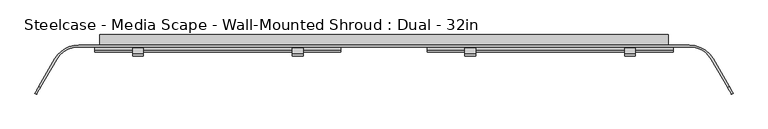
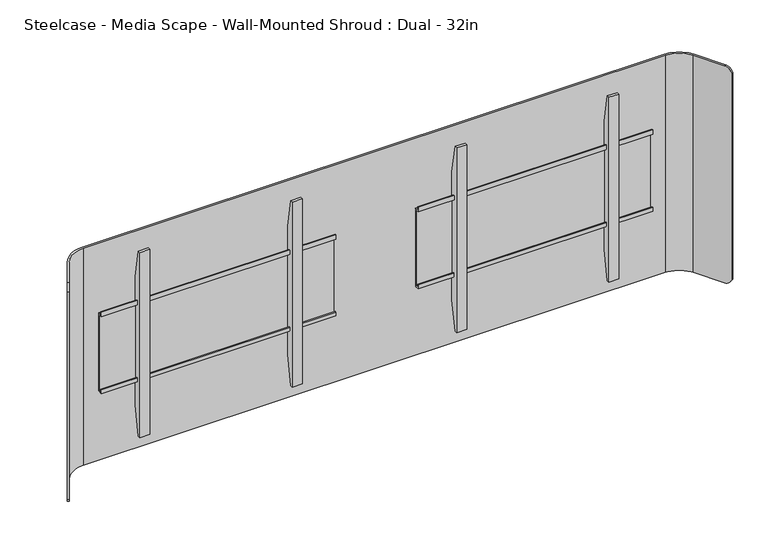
"""IFC4 building model written with IfcOpenShell, lengths in millimetres: furniture geometry, Steelcase - Media Scape - Wall-Mounted Shroud : Dual - 32in."""

from ifc_helpers import new_model, si_unit, frame, origin, place, context, project, spatial, polyline, circle_curve, outline, extrude, source, transform, mapped, element, save
from ifc_brep_helpers import plane_surface, cylinder_surface, revolved_surface, advanced_brep


def steelcase_media_scape_wall_mounted_shroud_dual_32in_642b713b(model_context):
    return source(origin(), model_context, "Body", "SolidModel", [
        extrude(outline(polyline([(-42.4942785, 1237.6504726), (-42.4942785, 1249.6645649), (-39.8272175, 1249.6645649), (-39.8272175, 1240.317461), (-29.9720009, 1240.317461), (-29.9720009, 1025.9922438), (-42.3164551, 1025.9922438), (-42.3164551, 1036.9142515), (-39.649394, 1036.9142515), (-39.649394, 1028.657052), (-32.6531824, 1028.657052), (-32.6531824, 1237.6504726), (-42.4942785, 1237.6504726)])), frame((107.061, 0.0, 0.0), z_axis=(1.0, 0.0, 0.0), x_axis=(0.0, 1.0, 0.0)), (0.0, 0.0, 1.0), 609.6),
        extrude(outline(polyline([(-32.6531824, 1308.5971148), (-32.6531824, 956.7825607), (-46.5049349, 879.1546949), (-53.3399828, 879.1546949), (-53.3399828, 1387.1547192), (-46.5050076, 1387.1547192), (-32.6531824, 1308.5971148)])), frame((200.662426, 0.0, 0.0), z_axis=(1.0, 0.0, 0.0), x_axis=(0.0, 1.0, 0.0)), (0.0, 0.0, 1.0), 26.1592872),
        extrude(outline(polyline([(-32.6531824, 1308.5971148), (-32.6531824, 956.7825607), (-46.5049349, 879.1546949), (-53.3399828, 879.1546949), (-53.3399828, 1387.1547192), (-46.5050076, 1387.1547192), (-32.6531824, 1308.5971148)])), frame((596.9002868, 0.0, 0.0), z_axis=(1.0, 0.0, 0.0), x_axis=(0.0, 1.0, 0.0)), (0.0, 0.0, 1.0), 26.1592872),
        extrude(outline(polyline([(-42.4942785, 1237.6504726), (-42.4942785, 1249.6645649), (-39.8272175, 1249.6645649), (-39.8272175, 1240.317461), (-29.9720009, 1240.317461), (-29.9720009, 1025.9922438), (-42.3164551, 1025.9922438), (-42.3164551, 1036.9142515), (-39.649394, 1036.9142515), (-39.649394, 1028.657052), (-32.6531824, 1028.657052), (-32.6531824, 1237.6504726), (-42.4942785, 1237.6504726)])), frame((-716.661, 0.0, 0.0), z_axis=(1.0, 0.0, 0.0), x_axis=(0.0, 1.0, 0.0)), (0.0, 0.0, 1.0), 609.6),
        extrude(outline(polyline([(-32.6531824, 1308.5971148), (-32.6531824, 956.7825607), (-46.5049349, 879.1546949), (-53.3399828, 879.1546949), (-53.3399828, 1387.1547192), (-46.5050076, 1387.1547192), (-32.6531824, 1308.5971148)])), frame((-226.8217132, 0.0, 0.0), z_axis=(1.0, 0.0, 0.0), x_axis=(0.0, 1.0, 0.0)), (0.0, 0.0, 1.0), 26.1592872),
        extrude(outline(polyline([(-32.6531824, 1308.5971148), (-32.6531824, 956.7825607), (-46.5049349, 879.1546949), (-53.3399828, 879.1546949), (-53.3399828, 1387.1547192), (-46.5050076, 1387.1547192), (-32.6531824, 1308.5971148)])), frame((-623.059574, 0.0, 0.0), z_axis=(1.0, 0.0, 0.0), x_axis=(0.0, 1.0, 0.0)), (0.0, 0.0, 1.0), 26.1592872),
        advanced_brep(
        [(-811.6586135, -61.722, 1432.814), (-756.666002, -29.9720009, 1432.814), (756.666, -29.9720009, 1432.814), (811.6586135, -61.722, 1432.814), (851.779586, -131.2135628, 1432.814), (855.7390541, -128.9275628, 1432.814), (815.6180817, -59.436, 1432.814), (756.666002, -25.4, 1432.814), (-756.666, -25.4, 1432.814), (-815.6180817, -59.436, 1432.814), (-855.7421659, -128.9329524, 1432.814), (-851.7826977, -131.2189524, 1432.814), (-815.6180817, -59.436, 835.914), (-756.666002, -25.4, 835.914), (756.666, -25.4, 835.914), (815.6180817, -59.436, 835.914), (855.7906629, -129.0169518, 835.914), (851.8311948, -131.3029518, 835.914), (811.6586135, -61.722, 835.914), (756.666002, -29.9720009, 835.914), (-756.666, -29.9720009, 835.914), (-811.6586135, -61.722, 835.914), (-851.8454014, -131.3275584, 835.914), (-855.8048695, -129.0415584, 835.914), (-865.3090632, -145.5033047, 849.5242766), (-865.3090632, -145.5033047, 1418.8227735), (-861.3495951, -147.7893047, 1418.8227735), (-861.3495951, -147.7893047, 849.5242766), (861.3270866, -147.7503189, 849.4756893), (861.3270866, -147.7503189, 1418.9433849), (865.2865547, -145.4643189, 1418.9433849), (865.2865547, -145.4643189, 849.4756893)],
        [
            (0, 1, circle_curve(frame((-756.666002, -93.4719991, 1432.814), z_axis=(0.0, 0.0, -1.0), x_axis=(0.0, 1.0, 0.0)), 63.4999981)),
            (1, 2),
            (2, 3, circle_curve(frame((756.666002, -93.4719991, 1432.814), z_axis=(0.0, 0.0, -1.0), x_axis=(0.0, 1.0, 0.0)), 63.4999981)),
            (3, 4),
            (4, 5),
            (5, 6),
            (6, 7, circle_curve(frame((756.6660004, -93.472, 1432.814), z_axis=(0.0, 0.0, 1.0), x_axis=(0.0, 1.0, 0.0)), 68.072)),
            (7, 8),
            (8, 9, circle_curve(frame((-756.6660004, -93.472, 1432.814), z_axis=(0.0, 0.0, 1.0), x_axis=(0.0, 1.0, 0.0)), 68.072)),
            (9, 10),
            (10, 11),
            (11, 0),
            (12, 13, circle_curve(frame((-756.6660004, -93.472, 835.914), z_axis=(0.0, 0.0, -1.0), x_axis=(0.0, 1.0, 0.0)), 68.072)),
            (13, 14),
            (14, 15, circle_curve(frame((756.6660004, -93.472, 835.914), z_axis=(0.0, 0.0, -1.0), x_axis=(0.0, 1.0, 0.0)), 68.072)),
            (15, 16),
            (16, 17),
            (17, 18),
            (18, 19, circle_curve(frame((756.666002, -93.4719991, 835.914), z_axis=(0.0, 0.0, 1.0), x_axis=(0.0, 1.0, 0.0)), 63.4999981)),
            (19, 20),
            (20, 21, circle_curve(frame((-756.666002, -93.4719991, 835.914), z_axis=(0.0, 0.0, 1.0), x_axis=(0.0, 1.0, 0.0)), 63.4999981)),
            (21, 22),
            (22, 23),
            (23, 12),
            (0, 21),
            (20, 1),
            (8, 13),
            (12, 9),
            (23, 24, circle_curve(frame((-855.8048695, -129.0415584, 855.9928872), z_axis=(-0.8660254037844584, 0.49999999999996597, 0.0), x_axis=(-0.49999999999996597, -0.8660254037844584, 0.0)), 20.0788872)),
            (24, 25),
            (25, 10, circle_curve(frame((-855.7421659, -128.9329524, 1412.7351128), z_axis=(-0.8660254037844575, 0.4999999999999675, 0.0), x_axis=(-0.4999999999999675, -0.8660254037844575, 0.0)), 20.0788872)),
            (26, 25),
            (24, 27),
            (27, 26),
            (11, 26, circle_curve(frame((-851.7826977, -131.2189524, 1412.7351128), z_axis=(0.8660254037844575, -0.4999999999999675, 0.0), x_axis=(-0.4999999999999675, -0.8660254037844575, 0.0)), 20.0788872)),
            (27, 22, circle_curve(frame((-851.8454014, -131.3275584, 855.9928872), z_axis=(0.8660254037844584, -0.49999999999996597, 0.0), x_axis=(-0.49999999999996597, -0.8660254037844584, 0.0)), 20.0788872)),
            (7, 14),
            (19, 2),
            (3, 18),
            (17, 28, circle_curve(frame((851.8311948, -131.3029518, 855.9928872), z_axis=(-0.8660254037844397, -0.49999999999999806, 0.0), x_axis=(0.49999999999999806, -0.8660254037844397, 0.0)), 20.0788872)),
            (28, 29),
            (29, 4, circle_curve(frame((851.779586, -131.2135628, 1412.7351128), z_axis=(-0.8660254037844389, -0.49999999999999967, 0.0), x_axis=(0.49999999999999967, -0.8660254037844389, 0.0)), 20.0788872)),
            (30, 29),
            (28, 31),
            (31, 30),
            (15, 6),
            (5, 30, circle_curve(frame((855.7390541, -128.9275628, 1412.7351128), z_axis=(0.8660254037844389, 0.49999999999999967, 0.0), x_axis=(0.49999999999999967, -0.8660254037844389, 0.0)), 20.0788872)),
            (31, 16, circle_curve(frame((855.7906629, -129.0169518, 855.9928872), z_axis=(0.8660254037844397, 0.49999999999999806, 0.0), x_axis=(0.49999999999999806, -0.8660254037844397, 0.0)), 20.0788872)),
        ],
        [
            plane_surface(frame((-756.666002, -29.9720009, 1432.814), z_axis=(0.0, 0.0, 1.0), x_axis=(1.0, 0.0, 0.0))),
            plane_surface(frame((-756.666002, -29.9720009, 835.914), z_axis=(0.0, 0.0, -1.0), x_axis=(-1.0, 0.0, 0.0))),
            revolved_surface(polyline([(-756.666002, -29.972001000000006, 835.914), (-756.666002, -29.972001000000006, 1432.814)]), (-756.666002, -93.4719991, 835.914), (0.0, 0.0, -1.0)),
            cylinder_surface(frame((-756.6660004, -93.472, 835.914), z_axis=(0.0, 0.0, 1.0), x_axis=(0.0, 1.0, 0.0)), 68.072),
            plane_surface(frame((-815.6180817, -59.436, 1432.814), z_axis=(-0.8660254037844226, 0.5000000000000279, 0.0), x_axis=(0.0, 0.0, -1.0))),
            plane_surface(frame((-865.3090632, -145.5033047, 1432.814), z_axis=(-0.5000000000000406, -0.8660254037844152, 0.0), x_axis=(0.0, 0.0, -1.0))),
            plane_surface(frame((-861.3495951, -147.7893047, 1432.814), z_axis=(0.8660254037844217, -0.5000000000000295, 0.0), x_axis=(0.0, 0.0, -1.0))),
            plane_surface(frame((756.666, -25.4, 1432.814), z_axis=(0.0, 1.0, 0.0), x_axis=(0.0, 0.0, -1.0))),
            plane_surface(frame((-756.666, -29.9720009, 1432.814), z_axis=(0.0, -1.0, 0.0), x_axis=(0.0, 0.0, -1.0))),
            plane_surface(frame((811.6586135, -61.722, 1432.814), z_axis=(-0.8660254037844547, -0.4999999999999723, 0.0), x_axis=(0.0, 0.0, -1.0))),
            plane_surface(frame((861.3270866, -147.7503189, 1432.814), z_axis=(0.4999999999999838, -0.866025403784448, 0.0), x_axis=(0.0, 0.0, -1.0))),
            plane_surface(frame((865.2865547, -145.4643189, 1432.814), z_axis=(0.8660254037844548, 0.49999999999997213, 0.0), x_axis=(0.0, 0.0, -1.0))),
            cylinder_surface(frame((756.6660004, -93.472, 835.914), z_axis=(0.0, 0.0, 1.0), x_axis=(0.0, 1.0, 0.0)), 68.072),
            revolved_surface(polyline([(756.666002, -29.972001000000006, 835.914), (756.666002, -29.972001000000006, 1432.814)]), (756.666002, -93.4719991, 835.914), (0.0, 0.0, -1.0)),
            cylinder_surface(frame((-851.7826977, -131.2189524, 1412.7351128), z_axis=(0.8660254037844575, -0.4999999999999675, 0.0), x_axis=(-0.4999999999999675, -0.8660254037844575, 0.0)), 20.0788872),
            cylinder_surface(frame((-851.8454014, -131.3275584, 855.9928872), z_axis=(0.8660254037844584, -0.49999999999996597, 0.0), x_axis=(-0.49999999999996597, -0.8660254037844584, 0.0)), 20.0788872),
            cylinder_surface(frame((866.8864297, -122.4916225, 1412.7351128), z_axis=(0.8660254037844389, 0.49999999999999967, 0.0), x_axis=(0.49999999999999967, -0.8660254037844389, 0.0)), 20.0788872),
            cylinder_surface(frame((864.0789695, -124.2316958, 855.9928872), z_axis=(0.8660254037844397, 0.49999999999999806, 0.0), x_axis=(0.49999999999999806, -0.8660254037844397, 0.0)), 20.0788872),
        ],
        [
            (0, [[1, 2, 3, 4, 5, 6, 7, 8, 9, 10, 11, 12]]),
            (1, [[13, 14, 15, 16, 17, 18, 19, 20, 21, 22, 23, 24]]),
            (2, [[-1, 25, -21, 26]]),
            (3, [[-9, 27, -13, 28]]),
            (4, [[-28, -24, 29, 30, 31, -10]]),
            (5, [[32, -30, 33, 34]]),
            (6, [[-25, -12, 35, -34, 36, -22]]),
            (7, [[-8, 37, -14, -27]]),
            (8, [[-2, -26, -20, 38]]),
            (9, [[39, -18, 40, 41, 42, -4]]),
            (10, [[43, -41, 44, 45]]),
            (11, [[46, -6, 47, -45, 48, -16]]),
            (12, [[-7, -46, -15, -37]]),
            (13, [[-3, -38, -19, -39]]),
            (14, [[-11, -31, -32, -35]]),
            (15, [[-23, -36, -33, -29]]),
            (16, [[-5, -42, -43, -47]]),
            (17, [[-17, -48, -44, -40]]),
        ],
    ),
        extrude(outline(polyline([(912.1648167, 641.3499879), (912.1648167, 704.85), (1356.614, 704.85), (1356.614, -704.85), (912.1648167, -704.85), (912.1648167, -642.3433465), (1293.1139516, -642.3433465), (1293.1139516, 641.3499879), (912.1648167, 641.3499879)])), frame((0.0, -25.4, 0.0), z_axis=(0.0, 1.0, 0.0), x_axis=(0.0, 0.0, 1.0)), (0.0, 0.0, 1.0), 25.4),
    ])


if __name__ == "__main__":
    model = new_model("IFC4")
    model_context = context("Model", 3, world=origin())
    ifc_project = project(units=[si_unit("LENGTHUNIT", "METRE", prefix="MILLI")], contexts=[model_context])
    site = spatial("IfcSite", under=ifc_project)
    building = spatial("IfcBuilding", under=site)
    placement = place(None, origin())
    steelcase_media_scape_wall_mounted_shroud_dual_32in_shape = steelcase_media_scape_wall_mounted_shroud_dual_32in_642b713b(model_context)
    element("IfcFurniture", 1, ObjectType="Steelcase - Media Scape - Wall-Mounted Shroud : Dual - 32in", at=placement, inside=building, context=model_context, shape_type="MappedRepresentation", body=[
        mapped(steelcase_media_scape_wall_mounted_shroud_dual_32in_shape, transform((0.0, 0.0, 0.0), x_axis=(1.0, 0.0, 0.0), y_axis=(0.0, 1.0, 0.0), z_axis=(0.0, 0.0, 1.0))),
    ])
    save(model, "model.ifc")
